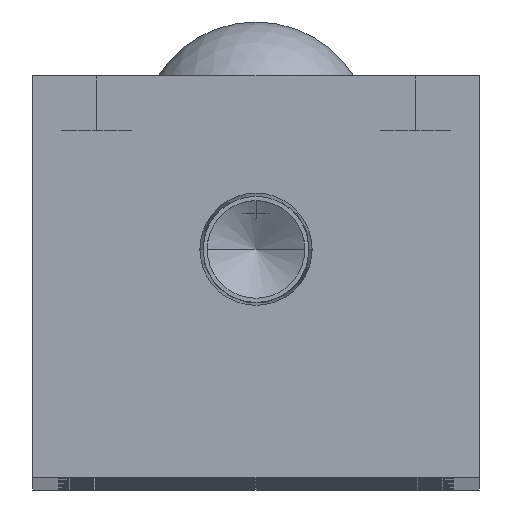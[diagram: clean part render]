
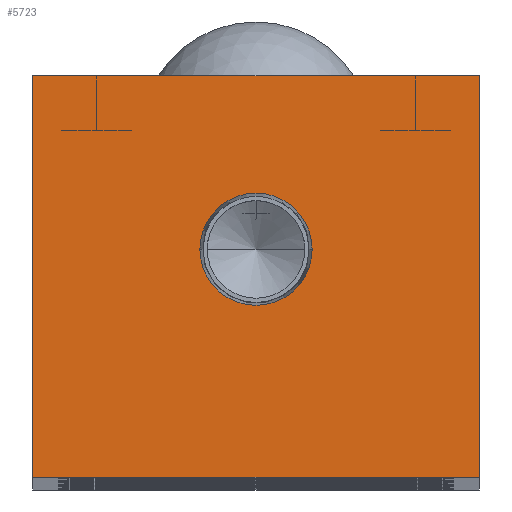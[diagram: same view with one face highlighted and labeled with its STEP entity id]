
A CAD part, top view. The second image highlights one B-rep face of the part: STEP entity #5723.
In plain terms, the highlighted planar face has unit normal (0, 0, 1).
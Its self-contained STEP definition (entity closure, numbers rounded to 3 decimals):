
#325 = EDGE_CURVE ( 'NONE', #19819, #581, #14537, .T. ) ;
#581 = VERTEX_POINT ( 'NONE', #9640 ) ;
#866 = CARTESIAN_POINT ( 'NONE',  ( 24.5, 44., 0. ) ) ;
#916 = DIRECTION ( 'NONE',  ( 0., -1., 0. ) ) ;
#964 = VERTEX_POINT ( 'NONE', #2208 ) ;
#1015 = CARTESIAN_POINT ( 'NONE',  ( 24.5, 0., 0. ) ) ;
#1267 = CARTESIAN_POINT ( 'NONE',  ( 0., 25., 0. ) ) ;
#1435 = EDGE_CURVE ( 'NONE', #581, #7539, #18992, .T. ) ;
#2208 = CARTESIAN_POINT ( 'NONE',  ( -6.154, 25., 0. ) ) ;
#2289 = EDGE_CURVE ( 'NONE', #15894, #964, #12461, .T. ) ;
#2456 = CARTESIAN_POINT ( 'NONE',  ( 0., 25., 0. ) ) ;
#2878 = DIRECTION ( 'NONE',  ( 1., 0., 0. ) ) ;
#3398 = CIRCLE ( 'NONE', #14639, 6.154 ) ;
#4091 = CARTESIAN_POINT ( 'NONE',  ( -24.5, 0., 0. ) ) ;
#4108 = DIRECTION ( 'NONE',  ( 1., 0., 0. ) ) ;
#4247 = AXIS2_PLACEMENT_3D ( 'NONE', #18484, #8932, #20084 ) ;
#5723 = ADVANCED_FACE ( 'NONE', ( #19495, #15769 ), #18422, .F. ) ;
#6758 = ORIENTED_EDGE ( 'NONE', *, *, #7160, .T. ) ;
#7160 = EDGE_CURVE ( 'NONE', #8694, #19819, #13594, .T. ) ;
#7500 = CARTESIAN_POINT ( 'NONE',  ( -24.5, 44., 0. ) ) ;
#7539 = VERTEX_POINT ( 'NONE', #11505 ) ;
#8076 = ORIENTED_EDGE ( 'NONE', *, *, #12960, .F. ) ;
#8306 = VECTOR ( 'NONE', #916, 1000. ) ;
#8627 = CARTESIAN_POINT ( 'NONE',  ( 6.154, 25., 0. ) ) ;
#8694 = VERTEX_POINT ( 'NONE', #19146 ) ;
#8932 = DIRECTION ( 'NONE',  ( 0., 0., -1. ) ) ;
#9128 = CARTESIAN_POINT ( 'NONE',  ( -24.5, 0., 0. ) ) ;
#9349 = ORIENTED_EDGE ( 'NONE', *, *, #19796, .T. ) ;
#9640 = CARTESIAN_POINT ( 'NONE',  ( 24.5, 0., 0. ) ) ;
#10092 = ORIENTED_EDGE ( 'NONE', *, *, #325, .T. ) ;
#10306 = VECTOR ( 'NONE', #20213, 1000. ) ;
#10434 = DIRECTION ( 'NONE',  ( 0., 1., 0. ) ) ;
#10561 = EDGE_LOOP ( 'NONE', ( #17092, #8076 ) ) ;
#11505 = CARTESIAN_POINT ( 'NONE',  ( 24.5, 44., 0. ) ) ;
#12358 = LINE ( 'NONE', #7500, #19838 ) ;
#12447 = DIRECTION ( 'NONE',  ( 0., 0., 1. ) ) ;
#12461 = CIRCLE ( 'NONE', #13643, 6.154 ) ;
#12960 = EDGE_CURVE ( 'NONE', #964, #15894, #3398, .T. ) ;
#13594 = LINE ( 'NONE', #4091, #8306 ) ;
#13643 = AXIS2_PLACEMENT_3D ( 'NONE', #2456, #13671, #4108 ) ;
#13671 = DIRECTION ( 'NONE',  ( 0., 0., 1. ) ) ;
#14537 = LINE ( 'NONE', #1015, #10306 ) ;
#14639 = AXIS2_PLACEMENT_3D ( 'NONE', #1267, #12447, #2878 ) ;
#14842 = ORIENTED_EDGE ( 'NONE', *, *, #1435, .T. ) ;
#15252 = VECTOR ( 'NONE', #10434, 1000. ) ;
#15769 = FACE_OUTER_BOUND ( 'NONE', #16192, .T. ) ;
#15894 = VERTEX_POINT ( 'NONE', #8627 ) ;
#16192 = EDGE_LOOP ( 'NONE', ( #6758, #10092, #14842, #9349 ) ) ;
#17073 = DIRECTION ( 'NONE',  ( -1., 0., 0. ) ) ;
#17092 = ORIENTED_EDGE ( 'NONE', *, *, #2289, .F. ) ;
#18422 = PLANE ( 'NONE',  #4247 ) ;
#18484 = CARTESIAN_POINT ( 'NONE',  ( 0., 0., 0. ) ) ;
#18992 = LINE ( 'NONE', #866, #15252 ) ;
#19146 = CARTESIAN_POINT ( 'NONE',  ( -24.5, 44., 0. ) ) ;
#19495 = FACE_BOUND ( 'NONE', #10561, .T. ) ;
#19796 = EDGE_CURVE ( 'NONE', #7539, #8694, #12358, .T. ) ;
#19819 = VERTEX_POINT ( 'NONE', #9128 ) ;
#19838 = VECTOR ( 'NONE', #17073, 1000. ) ;
#20084 = DIRECTION ( 'NONE',  ( -1., 0., 0. ) ) ;
#20213 = DIRECTION ( 'NONE',  ( 1., 0., 0. ) ) ;
